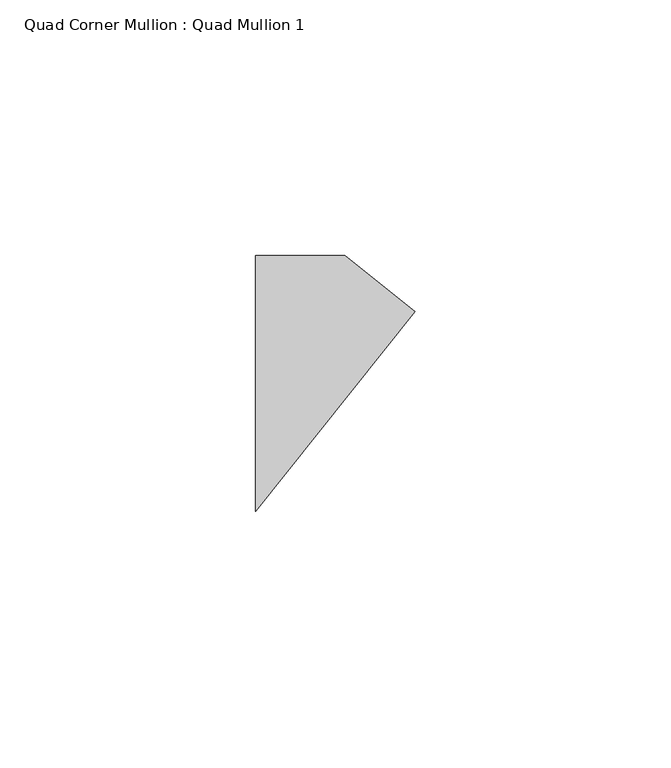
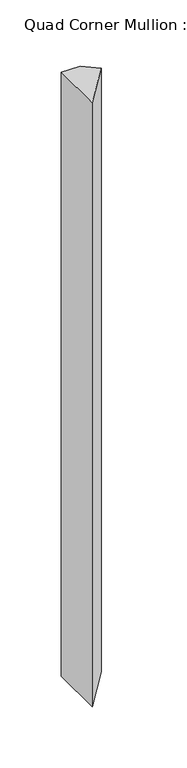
"""IFC4 building model written with IfcOpenShell, lengths in millimetres: member geometry, Quad Corner Mullion : Quad Mullion 1."""

import ifcopenshell
import ifcopenshell.guid

model = None  # the IFC model being written
_history = None  # IfcOwnerHistory: only IFC2X3 demands one
_inside = {}  # id of a spatial element -> (the spatial element, [elements in it])
_under = {}  # id of a project, library or spatial element -> (it, [spatial elements below it])
_declared = {}  # id of a project -> (the project, [libraries it declares])
_typed = {}  # id of a type object -> (the type object, [elements of that type])
_made_of = {}  # id of a material, layer set ... -> (it, [elements and type objects made of it])


def new_model(schema):
    """Start an empty IFC model of exactly this schema.

    Asked for "IFC4X3", IfcOpenShell would pick the latest addendum, in which some entities
    have other attributes; the version numbers below select the first issue.
    IFC2X3 requires an IfcOwnerHistory on every rooted entity: one is made here for all.
    """
    global model, _history
    if schema == "IFC4X3":
        model = ifcopenshell.file(schema_version=(4, 3, 0, 0))
    else:
        model = ifcopenshell.file(schema=schema)
    _inside.clear()
    _under.clear()
    _declared.clear()
    _typed.clear()
    _made_of.clear()
    _history = None
    if model.schema == "IFC2X3":
        org = make("IfcOrganization", Name="unknown")
        user = make(
            "IfcPersonAndOrganization",
            ThePerson=make("IfcPerson", FamilyName="unknown"),
            TheOrganization=org,
        )
        app = make(
            "IfcApplication",
            ApplicationDeveloper=org,
            Version="unknown",
            ApplicationFullName="unknown",
            ApplicationIdentifier="unknown",
        )
        _history = make(
            "IfcOwnerHistory",
            OwningUser=user,
            OwningApplication=app,
            ChangeAction="ADDED",
            CreationDate=0,
        )
    return model


def make(cls, **values):
    """One entity of the class cls with the attributes given. An attribute that is None is left unset."""
    return model.create_entity(
        cls, **{name: value for name, value in values.items() if value is not None}
    )


def rooted(cls, **values):
    """An entity with a GlobalId (a new one), such as an element, a storey or a relation."""
    return make(cls, GlobalId=ifcopenshell.guid.new(), OwnerHistory=_history, **values)


def si_unit(unit_type, name, prefix=None):
    """IfcSIUnit, for example si_unit("LENGTHUNIT", "METRE", prefix="MILLI")."""
    return make("IfcSIUnit", UnitType=unit_type, Prefix=prefix, Name=name)


def assignment(units):
    """IfcUnitAssignment: the units of a project."""
    return None if units is None else make("IfcUnitAssignment", Units=units)


def point(xyz):
    """IfcCartesianPoint."""
    return None if xyz is None else make("IfcCartesianPoint", Coordinates=xyz)


def direction(xyz):
    """IfcDirection."""
    return None if xyz is None else make("IfcDirection", DirectionRatios=xyz)


def frame(location, z_axis=None, x_axis=None):
    """IfcAxis2Placement3D, a coordinate frame: its origin and axes. An axis left out is left unset."""
    return make(
        "IfcAxis2Placement3D",
        Location=point(location),
        Axis=direction(z_axis),
        RefDirection=direction(x_axis),
    )


def origin():
    """The frame at (0, 0, 0) with its axes left unset."""
    return frame((0.0, 0.0, 0.0))


def place(relative_to, where):
    """IfcLocalPlacement: puts the frame where relative to a parent placement (None: the world)."""
    return make(
        "IfcLocalPlacement", PlacementRelTo=relative_to, RelativePlacement=where
    )


def context(
    kind, dimensions, precision=None, world=None, true_north=None, identifier=None
):
    """IfcGeometricRepresentationContext, for example the 3D "Model" context."""
    return make(
        "IfcGeometricRepresentationContext",
        ContextIdentifier=identifier,
        ContextType=kind,
        CoordinateSpaceDimension=dimensions,
        Precision=precision,
        WorldCoordinateSystem=world,
        TrueNorth=true_north,
    )


def project(units=None, contexts=None):
    """IfcProject with its units and contexts."""
    return rooted(
        "IfcProject",
        Name="project",
        RepresentationContexts=contexts,
        UnitsInContext=assignment(units),
    )


def spatial(cls, under=None, at=None, **own):
    """A site, building, storey or space (cls), placed at a placement, below another one or the project."""
    s = rooted(cls, ObjectPlacement=at, **own)
    if under is not None:
        _under.setdefault(under.id(), (under, []))[1].append(s)
    return s


def polyline(points):
    """IfcPolyline through the points."""
    return make("IfcPolyline", Points=[point(p) for p in points])


def outline(outer, holes=None, kind="AREA"):
    """IfcArbitraryClosedProfileDef: a profile drawn as a closed curve; with holes, ...WithVoids."""
    if holes is None:
        return make("IfcArbitraryClosedProfileDef", ProfileType=kind, OuterCurve=outer)
    return make(
        "IfcArbitraryProfileDefWithVoids",
        ProfileType=kind,
        OuterCurve=outer,
        InnerCurves=holes,
    )


def extrude(swept, where, along, depth):
    """IfcExtrudedAreaSolid: the profile swept, set in the frame where, extruded along a direction by depth."""
    return make(
        "IfcExtrudedAreaSolid",
        SweptArea=swept,
        Position=where,
        ExtrudedDirection=direction(along),
        Depth=depth,
    )


def shape(context_of_items, identifier, shape_type, items):
    """IfcShapeRepresentation: the items that make up one representation, for example the "Body"."""
    return make(
        "IfcShapeRepresentation",
        ContextOfItems=context_of_items,
        RepresentationIdentifier=identifier,
        RepresentationType=shape_type,
        Items=items,
    )


def source(mapping_origin, context_of_items, identifier, shape_type, items):
    """IfcRepresentationMap: a shape defined once, which mapped items show again and again."""
    return make(
        "IfcRepresentationMap",
        MappingOrigin=mapping_origin,
        MappedRepresentation=shape(context_of_items, identifier, shape_type, items),
    )


def transform(
    local_origin,
    x_axis=None,
    y_axis=None,
    z_axis=None,
    scale=None,
    scale2=None,
    scale3=None,
    uniform=True,
):
    """IfcCartesianTransformationOperator3D, or its non-uniform kind. x_axis, y_axis, z_axis: its Axis1, 2, 3."""
    if uniform:
        return make(
            "IfcCartesianTransformationOperator3D",
            Axis1=direction(x_axis),
            Axis2=direction(y_axis),
            LocalOrigin=point(local_origin),
            Scale=scale,
            Axis3=direction(z_axis),
        )
    return make(
        "IfcCartesianTransformationOperator3DnonUniform",
        Axis1=direction(x_axis),
        Axis2=direction(y_axis),
        LocalOrigin=point(local_origin),
        Scale=scale,
        Axis3=direction(z_axis),
        Scale2=scale2,
        Scale3=scale3,
    )


def mapped(mapping_source, mapping_target):
    """IfcMappedItem: shows the shape of a source again, moved by a transform."""
    return make(
        "IfcMappedItem", MappingSource=mapping_source, MappingTarget=mapping_target
    )


def made_of(thing, what):
    """Note that an element or type object is made of a material, layer set ...; save() writes the relation."""
    if what is not None:
        _made_of.setdefault(what.id(), (what, []))[1].append(thing)
    return thing


def element(
    cls,
    number,
    at=None,
    inside=None,
    cuts=None,
    type_object=None,
    material=None,
    context=None,
    identifier="Body",
    shape_type=None,
    held_by="IfcProductDefinitionShape",
    body=None,
    shapes=None,
    **own,
):
    """One element of the class cls, such as IfcWall. Its Tag is "e" and its number.

    at: its placement. inside: the storey or other place that contains it. cuts: it is an
    opening in that element (IfcRelVoidsElement). A single representation is given by context,
    identifier, shape_type and body (its items); several are given by shapes. held_by: the class
    of the entity that holds the representations. save() writes the other relations.
    """
    e = rooted(cls, Tag="e%d" % number, ObjectPlacement=at, **own)
    if body is not None:
        shapes = [shape(context, identifier, shape_type, body)]
    if shapes is not None:
        e.Representation = make(held_by, Representations=shapes)
    if inside is not None:
        _inside.setdefault(inside.id(), (inside, []))[1].append(e)
    if cuts is not None:
        rooted(
            "IfcRelVoidsElement", RelatingBuildingElement=cuts, RelatedOpeningElement=e
        )
    if type_object is not None:
        _typed.setdefault(type_object.id(), (type_object, []))[1].append(e)
    return made_of(e, material)


def aggregate(whole, parts):
    """IfcRelAggregates: a whole, such as a stair, and the parts it consists of."""
    return rooted("IfcRelAggregates", RelatingObject=whole, RelatedObjects=parts)


def save(model, path):
    """Write the relations noted so far, then the file.

    IfcRelAggregates (storeys below a building ...), IfcRelContainedInSpatialStructure (elements
    in a storey), IfcRelDefinesByType, IfcRelAssociatesMaterial and IfcRelDeclares: one each for
    every whole, place, type object, material and project.
    """
    for whole, parts in _under.values():
        aggregate(whole, parts)
    for where, things in _inside.values():
        rooted(
            "IfcRelContainedInSpatialStructure",
            RelatedElements=things,
            RelatingStructure=where,
        )
    for kind, things in _typed.values():
        rooted("IfcRelDefinesByType", RelatedObjects=things, RelatingType=kind)
    for what, things in _made_of.values():
        rooted("IfcRelAssociatesMaterial", RelatedObjects=things, RelatingMaterial=what)
    for by, libraries in _declared.values():
        rooted("IfcRelDeclares", RelatingContext=by, RelatedDefinitions=libraries)
    model.write(path)


def quad_corner_mullion_quad_mullion_1_06978146(model_context):
    return source(origin(), model_context, "Body", "SweptSolid", [
        extrude(outline(polyline([(22.4169637, 14.1035695), (-8.7424787, -25.0), (-8.7424787, 25.0), (8.7424787, 25.0), (22.4169637, 14.1035695)])), frame((0.0, 0.0, -600.0), z_axis=(0.0, 0.0, 1.0), x_axis=(1.0, 0.0, 0.0)), (0.0, 0.0, 1.0), 600.0),
    ])


if __name__ == "__main__":
    model = new_model("IFC4")
    model_context = context("Model", 3, world=origin())
    ifc_project = project(units=[si_unit("LENGTHUNIT", "METRE", prefix="MILLI")], contexts=[model_context])
    site = spatial("IfcSite", under=ifc_project)
    building = spatial("IfcBuilding", under=site)
    placement = place(None, origin())
    quad_corner_mullion_quad_mullion_1_shape = quad_corner_mullion_quad_mullion_1_06978146(model_context)
    element("IfcMember", 1, ObjectType="Quad Corner Mullion : Quad Mullion 1", at=placement, inside=building, context=model_context, shape_type="MappedRepresentation", body=[
        mapped(quad_corner_mullion_quad_mullion_1_shape, transform((0.0, 0.0, 0.0), x_axis=(1.0, 0.0, 0.0), y_axis=(0.0, 1.0, 0.0), z_axis=(0.0, 0.0, 1.0))),
    ])
    save(model, "model.ifc")
